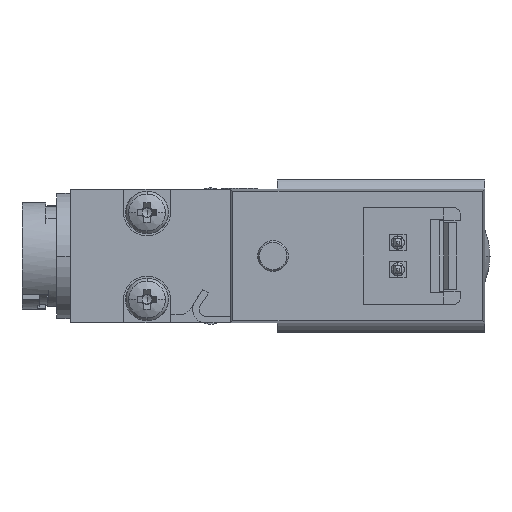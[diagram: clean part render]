
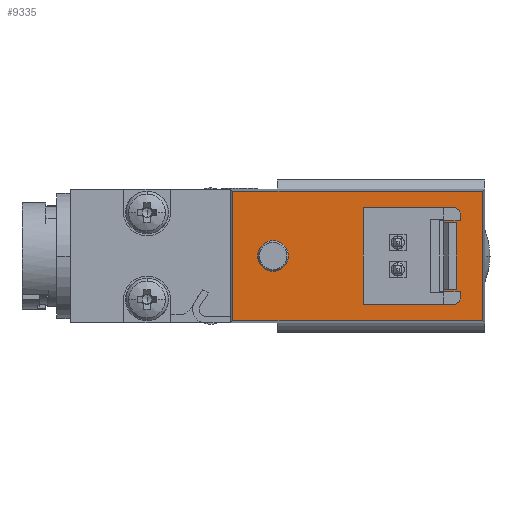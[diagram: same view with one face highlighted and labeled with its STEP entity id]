
A CAD part, left-side view. The second image highlights one B-rep face of the part: STEP entity #9335.
In plain terms, the highlighted planar face has unit normal (-1, 0, 0) as drawn and (0, 0, 1) by its records, which use the part's own axes.
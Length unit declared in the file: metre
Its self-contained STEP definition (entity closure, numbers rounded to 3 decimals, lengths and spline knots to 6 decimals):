
#15 = EDGE_CURVE ( 'NONE', #3573, #11452, #4206, .T. ) ;
#226 = ORIENTED_EDGE ( 'NONE', *, *, #5273, .F. ) ;
#306 =( BOUNDED_CURVE ( )  B_SPLINE_CURVE ( 3, ( #14861, #16156, #2957, #14229 ),
 .UNSPECIFIED., .F., .T. ) 
 B_SPLINE_CURVE_WITH_KNOTS ( ( 4, 4 ),
 ( 0., 0.001563 ),
 .UNSPECIFIED. ) 
 CURVE ( )  GEOMETRIC_REPRESENTATION_ITEM ( )  RATIONAL_B_SPLINE_CURVE ( ( 0.957, 0.319, 0.319, 0.957 ) ) 
 REPRESENTATION_ITEM ( '' )  );
#378 = VECTOR ( 'NONE', #6778, 1. ) ;
#385 = DIRECTION ( 'NONE',  ( -1., 0., 0. ) ) ;
#811 = VECTOR ( 'NONE', #7449, 1. ) ;
#939 =( BOUNDED_CURVE ( )  B_SPLINE_CURVE ( 3, ( #14622, #3305, #15915, #8381 ),
 .UNSPECIFIED., .F., .F. ) 
 B_SPLINE_CURVE_WITH_KNOTS ( ( 4, 4 ),
 ( 0., 0.001563 ),
 .UNSPECIFIED. ) 
 CURVE ( )  GEOMETRIC_REPRESENTATION_ITEM ( )  RATIONAL_B_SPLINE_CURVE ( ( 0.957, 0.319, 0.319, 0.957 ) ) 
 REPRESENTATION_ITEM ( '' )  );
#1017 = CARTESIAN_POINT ( 'NONE',  ( 0.004825, 0.019825, 0.005 ) ) ;
#1296 = EDGE_CURVE ( 'NONE', #7330, #3989, #5154, .T. ) ;
#1953 = VERTEX_POINT ( 'NONE', #2814 ) ;
#2025 = EDGE_CURVE ( 'NONE', #5581, #6347, #7188, .T. ) ;
#2532 = ORIENTED_EDGE ( 'NONE', *, *, #13775, .T. ) ;
#2701 = FACE_BOUND ( 'NONE', #14573, .T. ) ;
#2707 = ORIENTED_EDGE ( 'NONE', *, *, #4432, .F. ) ;
#2814 = CARTESIAN_POINT ( 'NONE',  ( -0.00115, 0.016825, 0.005 ) ) ;
#2957 = CARTESIAN_POINT ( 'NONE',  ( 0.0015, 0.0065, 0.005 ) ) ;
#3305 = CARTESIAN_POINT ( 'NONE',  ( -0.0005, 0.0085, 0.005 ) ) ;
#3528 = DIRECTION ( 'NONE',  ( 0., 0., -1. ) ) ;
#3573 = VERTEX_POINT ( 'NONE', #12674 ) ;
#3705 = CARTESIAN_POINT ( 'NONE',  ( -0.0015, 0.0075, 0.005 ) ) ;
#3856 = DIRECTION ( 'NONE',  ( -1., 0., 0. ) ) ;
#3954 = CARTESIAN_POINT ( 'NONE',  ( 0.0015, 0.0085, 0.005 ) ) ;
#3989 = VERTEX_POINT ( 'NONE', #11584 ) ;
#4021 = CARTESIAN_POINT ( 'NONE',  ( 0.0015, 0.0075, 0.005 ) ) ;
#4053 = ORIENTED_EDGE ( 'NONE', *, *, #8645, .F. ) ;
#4061 = CARTESIAN_POINT ( 'NONE',  ( 0.0005, 0.0085, 0.005 ) ) ;
#4101 = CARTESIAN_POINT ( 'NONE',  ( 0.0005, 0.0075, 0.005 ) ) ;
#4206 = LINE ( 'NONE', #7632, #811 ) ;
#4432 = EDGE_CURVE ( 'NONE', #3989, #3573, #6155, .T. ) ;
#4576 = EDGE_LOOP ( 'NONE', ( #2532, #14629 ) ) ;
#4589 = CIRCLE ( 'NONE', #13926, 0.00115 ) ;
#5015 = CARTESIAN_POINT ( 'NONE',  ( -0.0005, 0.0065, 0.005 ) ) ;
#5154 = LINE ( 'NONE', #11146, #11803 ) ;
#5273 = EDGE_CURVE ( 'NONE', #6347, #5581, #306, .T. ) ;
#5581 = VERTEX_POINT ( 'NONE', #7477 ) ;
#6075 = FACE_BOUND ( 'NONE', #9001, .T. ) ;
#6155 = LINE ( 'NONE', #7955, #9104 ) ;
#6276 = DIRECTION ( 'NONE',  ( 0., 0., -1. ) ) ;
#6347 = VERTEX_POINT ( 'NONE', #14090 ) ;
#6504 = VERTEX_POINT ( 'NONE', #6880 ) ;
#6583 = ORIENTED_EDGE ( 'NONE', *, *, #14478, .F. ) ;
#6695 = LINE ( 'NONE', #11842, #378 ) ;
#6778 = DIRECTION ( 'NONE',  ( 1., 0., 0. ) ) ;
#6852 = FACE_BOUND ( 'NONE', #4576, .T. ) ;
#6880 = CARTESIAN_POINT ( 'NONE',  ( 0.00115, 0.016825, 0.005 ) ) ;
#7122 = ORIENTED_EDGE ( 'NONE', *, *, #13564, .F. ) ;
#7188 =( BOUNDED_CURVE ( )  B_SPLINE_CURVE ( 3, ( #4021, #3954, #4061, #4101 ),
 .UNSPECIFIED., .F., .F. ) 
 B_SPLINE_CURVE_WITH_KNOTS ( ( 4, 4 ),
 ( 0., 0.001563 ),
 .UNSPECIFIED. ) 
 CURVE ( )  GEOMETRIC_REPRESENTATION_ITEM ( )  RATIONAL_B_SPLINE_CURVE ( ( 0.957, 0.319, 0.319, 0.957 ) ) 
 REPRESENTATION_ITEM ( '' )  );
#7330 = VERTEX_POINT ( 'NONE', #1017 ) ;
#7449 = DIRECTION ( 'NONE',  ( 0., 1., 0. ) ) ;
#7477 = CARTESIAN_POINT ( 'NONE',  ( 0.0015, 0.0075, 0.005 ) ) ;
#7632 = CARTESIAN_POINT ( 'NONE',  ( -0.004825, 0.0105, 0.005 ) ) ;
#7955 = CARTESIAN_POINT ( 'NONE',  ( 0., 0.001175, 0.005 ) ) ;
#8381 = CARTESIAN_POINT ( 'NONE',  ( -0.0015, 0.0075, 0.005 ) ) ;
#8516 = ORIENTED_EDGE ( 'NONE', *, *, #15, .F. ) ;
#8536 = EDGE_CURVE ( 'NONE', #6504, #1953, #12960, .T. ) ;
#8645 = EDGE_CURVE ( 'NONE', #11056, #10070, #9822, .T. ) ;
#8864 = PLANE ( 'NONE',  #12199 ) ;
#9001 = EDGE_LOOP ( 'NONE', ( #4053, #7122 ) ) ;
#9104 = VECTOR ( 'NONE', #385, 1. ) ;
#9335 = ADVANCED_FACE ( 'NONE', ( #6852, #2701, #6075, #15733 ), #8864, .F. ) ;
#9822 =( BOUNDED_CURVE ( )  B_SPLINE_CURVE ( 3, ( #3705, #9988, #5015, #13755 ),
 .UNSPECIFIED., .F., .F. ) 
 B_SPLINE_CURVE_WITH_KNOTS ( ( 4, 4 ),
 ( 0., 0.001563 ),
 .UNSPECIFIED. ) 
 CURVE ( )  GEOMETRIC_REPRESENTATION_ITEM ( )  RATIONAL_B_SPLINE_CURVE ( ( 0.957, 0.319, 0.319, 0.957 ) ) 
 REPRESENTATION_ITEM ( '' )  );
#9879 = EDGE_LOOP ( 'NONE', ( #6583, #8516, #2707, #13103 ) ) ;
#9988 = CARTESIAN_POINT ( 'NONE',  ( -0.0015, 0.0065, 0.005 ) ) ;
#10070 = VERTEX_POINT ( 'NONE', #15287 ) ;
#10126 = CARTESIAN_POINT ( 'NONE',  ( 0.004825, 0.001175, 0.005 ) ) ;
#10614 = AXIS2_PLACEMENT_3D ( 'NONE', #11074, #3528, #12327 ) ;
#10828 = DIRECTION ( 'NONE',  ( 0., -1., 0. ) ) ;
#11056 = VERTEX_POINT ( 'NONE', #16004 ) ;
#11074 = CARTESIAN_POINT ( 'NONE',  ( 0., 0.016825, 0.005 ) ) ;
#11146 = CARTESIAN_POINT ( 'NONE',  ( 0.004825, 0.0105, 0.005 ) ) ;
#11452 = VERTEX_POINT ( 'NONE', #12269 ) ;
#11584 = CARTESIAN_POINT ( 'NONE',  ( 0.004825, 0.001175, 0.005 ) ) ;
#11803 = VECTOR ( 'NONE', #10828, 1. ) ;
#11842 = CARTESIAN_POINT ( 'NONE',  ( 0., 0.019825, 0.005 ) ) ;
#12199 = AXIS2_PLACEMENT_3D ( 'NONE', #10126, #12565, #3856 ) ;
#12269 = CARTESIAN_POINT ( 'NONE',  ( -0.004825, 0.019825, 0.005 ) ) ;
#12327 = DIRECTION ( 'NONE',  ( -1., 0., 0. ) ) ;
#12565 = DIRECTION ( 'NONE',  ( 0., 0., -1. ) ) ;
#12674 = CARTESIAN_POINT ( 'NONE',  ( -0.004825, 0.001175, 0.005 ) ) ;
#12960 = CIRCLE ( 'NONE', #10614, 0.00115 ) ;
#13103 = ORIENTED_EDGE ( 'NONE', *, *, #1296, .F. ) ;
#13564 = EDGE_CURVE ( 'NONE', #10070, #11056, #939, .T. ) ;
#13755 = CARTESIAN_POINT ( 'NONE',  ( -0.0005, 0.0075, 0.005 ) ) ;
#13775 = EDGE_CURVE ( 'NONE', #1953, #6504, #4589, .T. ) ;
#13789 = CARTESIAN_POINT ( 'NONE',  ( 0., 0.016825, 0.005 ) ) ;
#13926 = AXIS2_PLACEMENT_3D ( 'NONE', #13789, #6276, #15064 ) ;
#14090 = CARTESIAN_POINT ( 'NONE',  ( 0.0005, 0.0075, 0.005 ) ) ;
#14229 = CARTESIAN_POINT ( 'NONE',  ( 0.0015, 0.0075, 0.005 ) ) ;
#14478 = EDGE_CURVE ( 'NONE', #11452, #7330, #6695, .T. ) ;
#14573 = EDGE_LOOP ( 'NONE', ( #15155, #226 ) ) ;
#14622 = CARTESIAN_POINT ( 'NONE',  ( -0.0005, 0.0075, 0.005 ) ) ;
#14629 = ORIENTED_EDGE ( 'NONE', *, *, #8536, .T. ) ;
#14861 = CARTESIAN_POINT ( 'NONE',  ( 0.0005, 0.0075, 0.005 ) ) ;
#15064 = DIRECTION ( 'NONE',  ( -1., 0., 0. ) ) ;
#15155 = ORIENTED_EDGE ( 'NONE', *, *, #2025, .F. ) ;
#15287 = CARTESIAN_POINT ( 'NONE',  ( -0.0005, 0.0075, 0.005 ) ) ;
#15733 = FACE_OUTER_BOUND ( 'NONE', #9879, .T. ) ;
#15915 = CARTESIAN_POINT ( 'NONE',  ( -0.0015, 0.0085, 0.005 ) ) ;
#16004 = CARTESIAN_POINT ( 'NONE',  ( -0.0015, 0.0075, 0.005 ) ) ;
#16156 = CARTESIAN_POINT ( 'NONE',  ( 0.0005, 0.0065, 0.005 ) ) ;
